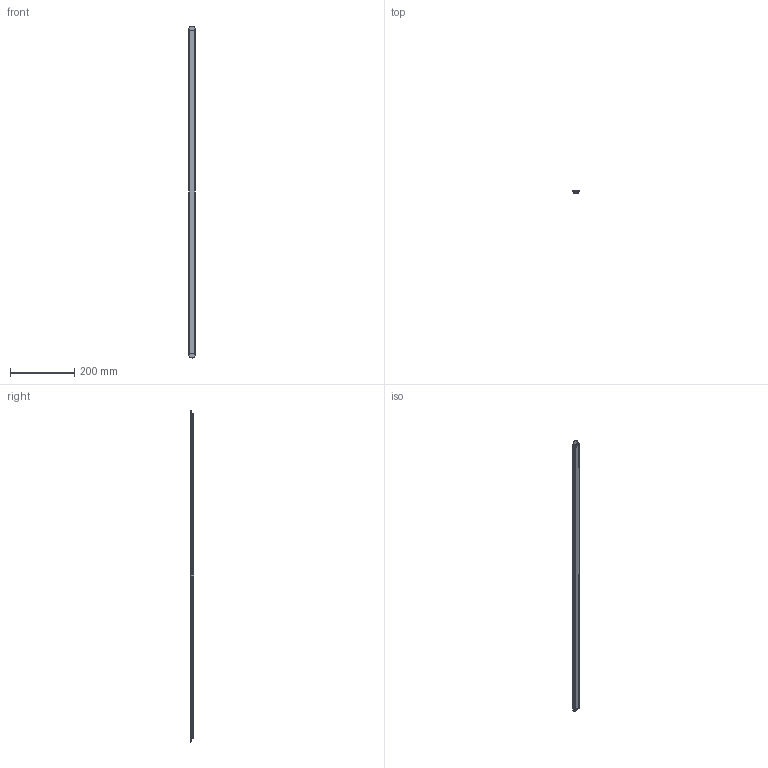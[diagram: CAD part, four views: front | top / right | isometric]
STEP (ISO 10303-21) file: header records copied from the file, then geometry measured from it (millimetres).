
FILE_DESCRIPTION (( 'STEP AP203' ), '1' );
FILE_NAME ('Recessed Profile - With Touch Sensor.STEP', '2025-09-10T13:03:54', ( '' ), ( '' ), 'SwSTEP 2.0', 'SolidWorks 2020', '' );
FILE_SCHEMA (( 'CONFIG_CONTROL_DESIGN' ));
Length unit declared in the file: millimetre
Products named in the file (10): Universal Sensor Housing - Upper Section - 18mm - V2_Touch; Polar - Connector Pins; Polar Connector - Upper; Polar Connector - Large Version for Universal Sensor Housing; Recessed Profile - With Touch Sensor; Profile Touch Dimmer_Touch - No Cable; Recessed - Linia Equivalent - 18mm_1 Meter; Universal Sensor With Housing - 18mm - Assembly_Touch - No Cable; Recessed - Linia Equivalent - End Cap - 18mm; Diffuser - 18mm_966.5
Assembly tree (10 placements, depth 3):
  Recessed Profile - With Touch Sensor
    Recessed - Linia Equivalent - 18mm_1 Meter
    Universal Sensor With Housing - 18mm - Assembly_Touch - No Cable
      Polar Connector - Large Version for Universal Sensor Housing
      Polar - Connector Pins
      Profile Touch Dimmer_Touch - No Cable
      Universal Sensor Housing - Upper Section - 18mm - V2_Touch
      Polar Connector - Upper
    Diffuser - 18mm_966.5
    Recessed - Linia Equivalent - End Cap - 18mm  x2
Bounding box: 20.8 x 10.1 x 1030.8 mm (x, y, z)
Volume: 61357.4 mm3; surface area: 122553 mm2
Topology: 11 solids, 11 shells, 1281 faces, 3147 edges, 1796 vertices
Faces by surface type: cylinder 534, plane 428, torus 165, sphere 122, bspline 30, cone 2
Entity records: 32818 total; most frequent: CARTESIAN_POINT 6102, DIRECTION 5711, ORIENTED_EDGE 5228, EDGE_CURVE 2614, AXIS2_PLACEMENT_3D 2105, VERTEX_POINT 1556, LINE 1501, VECTOR 1501
